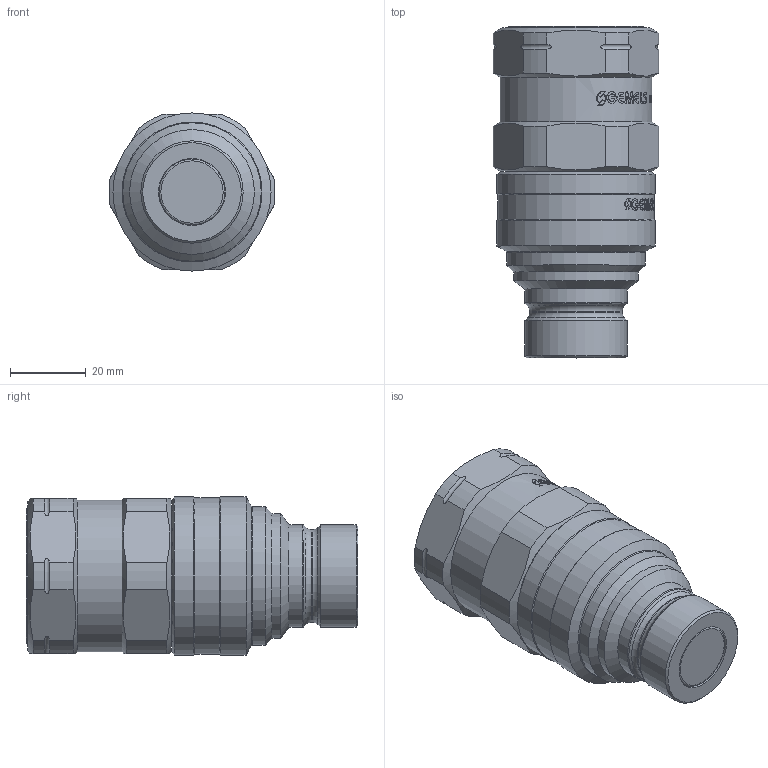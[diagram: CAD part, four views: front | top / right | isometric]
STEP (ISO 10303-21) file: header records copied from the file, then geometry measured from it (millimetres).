
FILE_DESCRIPTION(/* description */ (''),/* implementation_level */ '2;1');
FILE_NAME(/* name */ 'NC05N050003.stp',/* time_stamp */ '2024-08-27T10:29:47+02:00',/* author */ ('thomas.belotti'),/* organization */ (''),/* preprocessor_version */ 'ST-DEVELOPER v20',/* originating_system */ 'Autodesk Inventor 2024',/* authorisation */ '');
FILE_SCHEMA (('AUTOMOTIVE_DESIGN { 1 0 10303 214 3 1 1 }'));
Length unit declared in the file: millimetre
Products named in the file (1): Parte1
Bounding box: 43.73 x 87.5 x 41.7 mm (x, y, z)
Volume: 83169.4 mm3; surface area: 17725.6 mm2
Topology: 1 solids, 3 shells, 1045 faces, 2963 edges, 1973 vertices
Faces by surface type: bspline 683, plane 256, cylinder 77, cone 17, torus 12
Full cylindrical faces by diameter (mm): 17.55 x1, 17.65 x1, 23 x1, 24.5 x1, 27 x2, 28.575 x1, 29 x1, 31 x1, 32.95 x1, 35.5 x1, 36.5 x1, 37 x1, 37.3 x1, 40 x1, 41.2 x1, 41.7 x2
Entity records: 44824 total; most frequent: CARTESIAN_POINT 21102, ORIENTED_EDGE 5926, EDGE_CURVE 2963, DIRECTION 2626, VERTEX_POINT 1973, B_SPLINE_CURVE_WITH_KNOTS 1402, LINE 1166, VECTOR 1166
